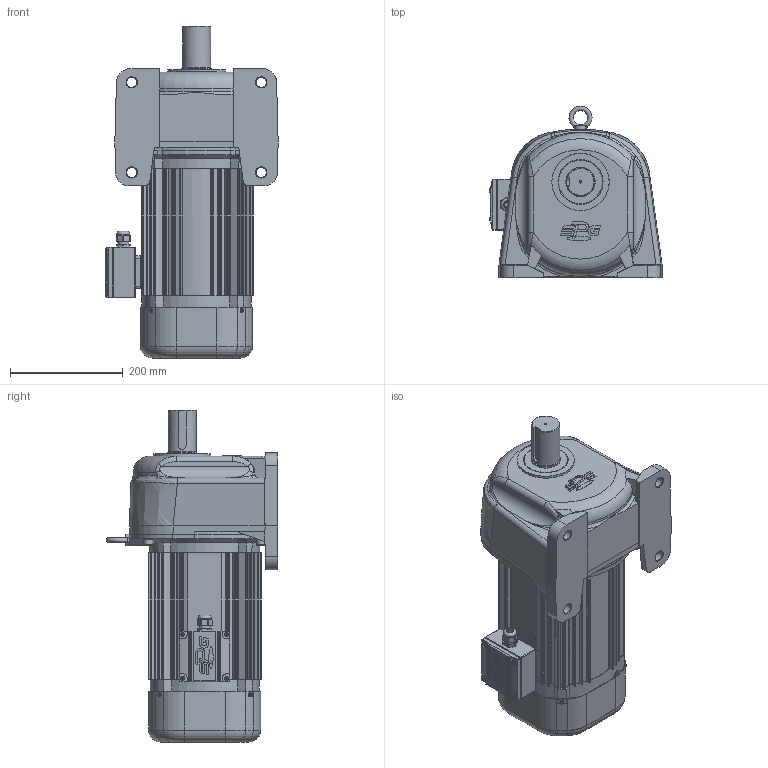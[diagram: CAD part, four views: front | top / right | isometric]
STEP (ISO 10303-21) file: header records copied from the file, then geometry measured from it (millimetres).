
FILE_DESCRIPTION(/* description */ (''),/* implementation_level */ '2;1');
FILE_NAME(/* name */ 'Z:\동력 3D 파일\PAL50-(30~100)-PC(D)220[ ]L.stp',/* time_stamp */ '2021-07-12T15:10:11+09:00',/* author */ ('jaebok'),/* organization */ (''),/* preprocessor_version */ 'ST-DEVELOPER v18.1',/* originating_system */ 'Autodesk Inventor 2022',/* authorisation */ '');
FILE_SCHEMA (('AUTOMOTIVE_DESIGN { 1 0 10303 214 3 1 1 }'));
Length unit declared in the file: millimetre
Products named in the file (1): 부품37
Bounding box: 306 x 304.87 x 589.6 mm (x, y, z)
Volume: 7535985 mm3; surface area: 1348859.7 mm2
Topology: 1 solids, 29 shells, 1807 faces, 4730 edges, 3033 vertices
Faces by surface type: plane 889, cylinder 667, cone 141, torus 55, bspline 51, sphere 4
Full cylindrical faces by diameter (mm): 2.5 x1, 3.242 x4, 3.25 x1, 3.6 x4, 4 x21, 5 x13, 6 x5, 6.647 x5, 7 x8, 8 x1, 8.376 x4, 9 x4, 10 x5, 11 x4, 12 x4, 12.5 x1, 15 x1, 16 x4, 18 x4, 20 x2, 21 x1, 23.6 x1, 25 x2, 35.8 x1, 36 x2, 49.8 x2, 50 x2, 52 x2, 52.8 x1, 55 x1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
Entity records: 62337 total; most frequent: CARTESIAN_POINT 15301, DIRECTION 9746, ORIENTED_EDGE 9416, EDGE_CURVE 4708, AXIS2_PLACEMENT_3D 3626, VERTEX_POINT 3033, LINE 2494, VECTOR 2494
